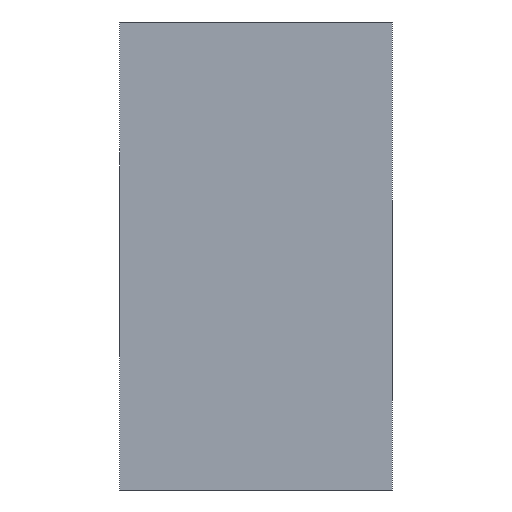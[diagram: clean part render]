
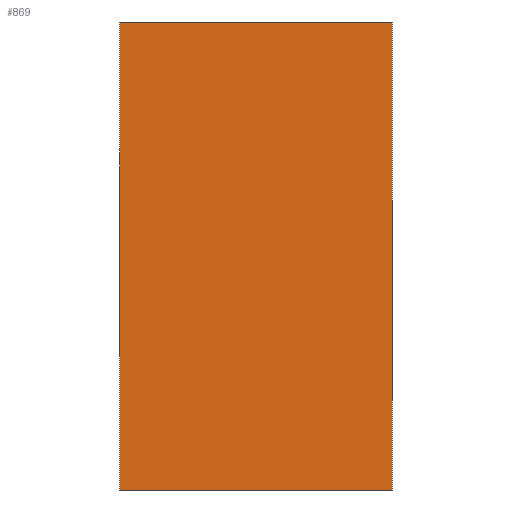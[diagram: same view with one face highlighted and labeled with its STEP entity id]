
A CAD part, front view. The second image highlights one B-rep face of the part: STEP entity #869.
In plain terms, the highlighted planar face has unit normal (0, -1, 0).
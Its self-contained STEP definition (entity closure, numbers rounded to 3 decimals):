
#18=DIRECTION('',(1.,0.,0.));
#19=VECTOR('',#18,32.);
#20=CARTESIAN_POINT('',(0.,-95.,-27.5));
#21=LINE('',#20,#19);
#108=DIRECTION('',(0.,0.,1.));
#109=VECTOR('',#108,55.);
#110=CARTESIAN_POINT('',(32.,-95.,-27.5));
#111=LINE('',#110,#109);
#182=DIRECTION('',(0.,0.,1.));
#183=VECTOR('',#182,55.);
#184=CARTESIAN_POINT('',(0.,-95.,-27.5));
#185=LINE('',#184,#183);
#198=DIRECTION('',(1.,0.,0.));
#199=VECTOR('',#198,32.);
#200=CARTESIAN_POINT('',(0.,-95.,27.5));
#201=LINE('',#200,#199);
#567=CARTESIAN_POINT('',(0.,-95.,-27.5));
#569=VERTEX_POINT('',#567);
#570=CARTESIAN_POINT('',(32.,-95.,-27.5));
#571=VERTEX_POINT('',#570);
#575=CARTESIAN_POINT('',(0.,-95.,27.5));
#577=VERTEX_POINT('',#575);
#578=CARTESIAN_POINT('',(32.,-95.,27.5));
#579=VERTEX_POINT('',#578);
#857=CARTESIAN_POINT('',(0.,-95.,-27.5));
#858=DIRECTION('',(0.,-1.,0.));
#859=DIRECTION('',(1.,0.,0.));
#860=AXIS2_PLACEMENT_3D('',#857,#858,#859);
#861=PLANE('',#860);
#862=ORIENTED_EDGE('',*,*,#721,.F.);
#863=ORIENTED_EDGE('',*,*,#752,.T.);
#865=ORIENTED_EDGE('',*,*,#864,.T.);
#866=ORIENTED_EDGE('',*,*,#807,.F.);
#867=EDGE_LOOP('',(#862,#863,#865,#866));
#868=FACE_OUTER_BOUND('',#867,.F.);
#869=ADVANCED_FACE('',(#868),#861,.T.);
#721=EDGE_CURVE('',#569,#571,#21,.T.);
#752=EDGE_CURVE('',#569,#577,#185,.T.);
#807=EDGE_CURVE('',#571,#579,#111,.T.);
#864=EDGE_CURVE('',#577,#579,#201,.T.);
